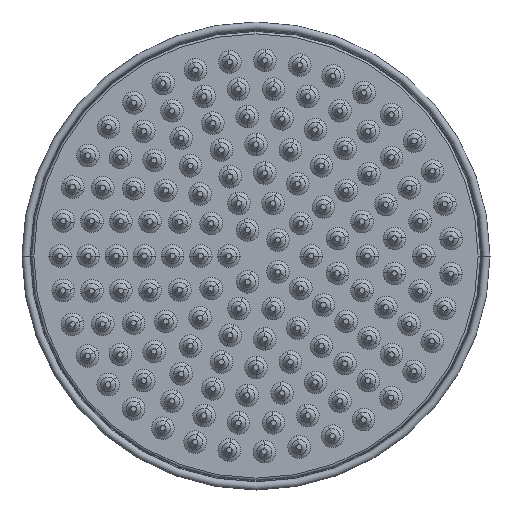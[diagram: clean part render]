
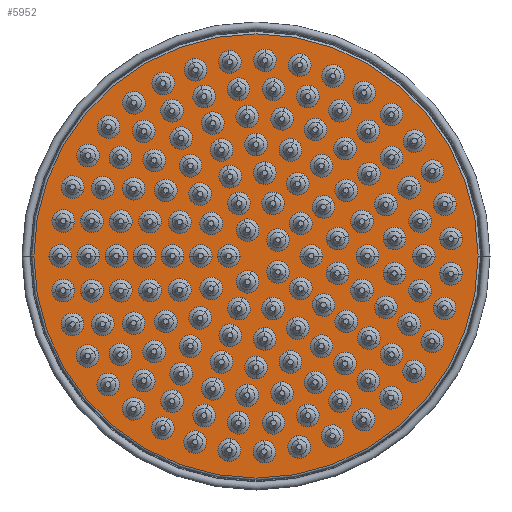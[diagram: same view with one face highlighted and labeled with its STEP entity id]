
A CAD part, front view. The second image highlights one B-rep face of the part: STEP entity #5952.
In plain terms, the highlighted planar face has unit normal (0, -1, 0).
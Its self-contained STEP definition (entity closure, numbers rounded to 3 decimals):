
#853=CARTESIAN_POINT('',(0.,19.,0.));
#854=DIRECTION('',(0.,1.,0.));
#855=DIRECTION('',(1.,0.,0.));
#856=AXIS2_PLACEMENT_3D('',#853,#854,#855);
#863=CARTESIAN_POINT('',(0.,19.,0.));
#864=DIRECTION('',(0.,-1.,0.));
#865=DIRECTION('',(1.,0.,0.));
#866=AXIS2_PLACEMENT_3D('',#863,#864,#865);
#4798=CARTESIAN_POINT('',(98.,19.,0.));
#4800=VERTEX_POINT('',#4798);
#4802=CARTESIAN_POINT('',(-98.,19.,0.));
#4804=VERTEX_POINT('',#4802);
#5942=CARTESIAN_POINT('',(0.,19.,0.));
#5943=DIRECTION('',(0.,1.,0.));
#5944=DIRECTION('',(1.,0.,0.));
#5945=AXIS2_PLACEMENT_3D('',#5942,#5943,#5944);
#5946=PLANE('',#5945);
#5948=ORIENTED_EDGE('',*,*,#5947,.F.);
#5949=ORIENTED_EDGE('',*,*,#5937,.T.);
#5950=EDGE_LOOP('',(#5948,#5949));
#5951=FACE_OUTER_BOUND('',#5950,.F.);
#5952=ADVANCED_FACE('',(#5951),#5946,.F.);
#857=CIRCLE('',#856,98.);
#867=CIRCLE('',#866,98.);
#5937=EDGE_CURVE('',#4800,#4804,#857,.T.);
#5947=EDGE_CURVE('',#4800,#4804,#867,.T.);
